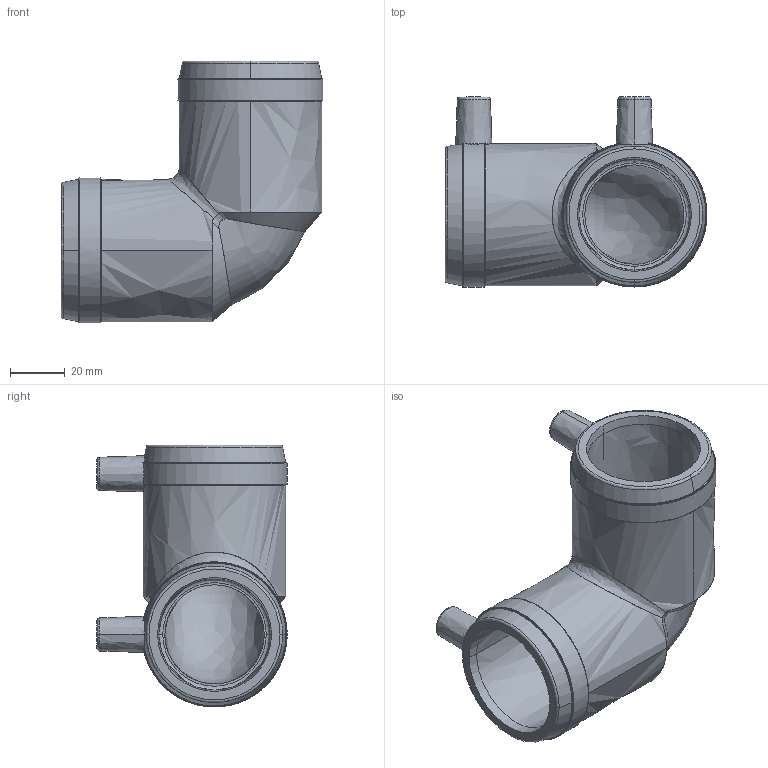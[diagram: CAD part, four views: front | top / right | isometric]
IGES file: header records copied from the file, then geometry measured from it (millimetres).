
Start section:  PTC IGES file: w90_d040_01.igs
Global section: file name: w90_d040_01.igs; native system: Pro/ENGINEER by Parametric Technology Corporation; preprocessor: 2011490; author: mtunjic; organization: Unknown; date: 20130812.093511; units: millimetre
Bounding box: 95.42 x 69.3 x 95.42 mm (x, y, z)
Surface area: 39590.8 mm2 (no closed solid volume)
Topology: 0 solids, 0 shells, 230 faces, 1146 edges, 1146 vertices
Faces by surface type: bspline 230
